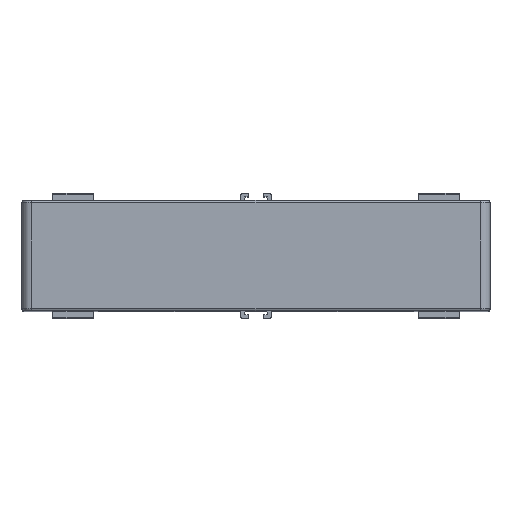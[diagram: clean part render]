
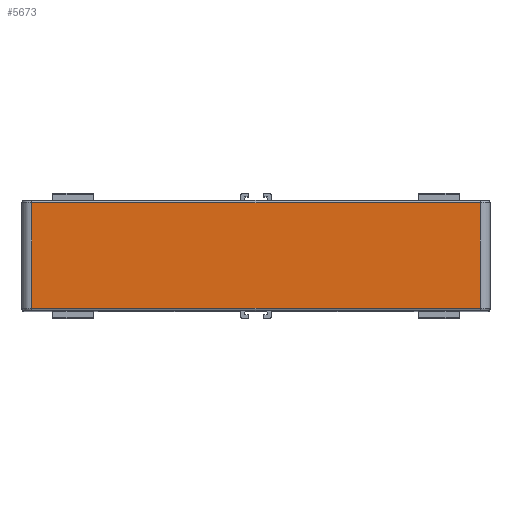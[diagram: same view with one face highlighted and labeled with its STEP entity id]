
A CAD part, top view. The second image highlights one B-rep face of the part: STEP entity #5673.
In plain terms, the highlighted planar face has unit normal (0, 0, 1).
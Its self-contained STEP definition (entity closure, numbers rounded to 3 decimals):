
#844 = EDGE_CURVE ( 'NONE', #37728, #25924, #2522, .T. ) ;
#1171 = CARTESIAN_POINT ( 'NONE',  ( 75.271, 244.964, 165.35 ) ) ;
#2522 = LINE ( 'NONE', #17769, #3105 ) ;
#2818 = DIRECTION ( 'NONE',  ( -1., 0., 0. ) ) ;
#3105 = VECTOR ( 'NONE', #25498, 1000. ) ;
#4589 = CARTESIAN_POINT ( 'NONE',  ( -106.729, 244.964, 165.35 ) ) ;
#5673 = ADVANCED_FACE ( 'NONE', ( #44958 ), #45257, .F. ) ;
#6398 = EDGE_LOOP ( 'NONE', ( #43668, #28620, #30978, #28619 ) ) ;
#7974 = LINE ( 'NONE', #18227, #29678 ) ;
#8506 = DIRECTION ( 'NONE',  ( 0., 1., 0. ) ) ;
#12250 = CARTESIAN_POINT ( 'NONE',  ( 75.271, 266.364, 165.35 ) ) ;
#13747 = VERTEX_POINT ( 'NONE', #34812 ) ;
#14177 = CARTESIAN_POINT ( 'NONE',  ( 75.271, 244.964, 165.35 ) ) ;
#15516 = CARTESIAN_POINT ( 'NONE',  ( -106.729, 287.764, 165.35 ) ) ;
#17769 = CARTESIAN_POINT ( 'NONE',  ( -106.729, 266.364, 165.35 ) ) ;
#18100 = EDGE_CURVE ( 'NONE', #13747, #37728, #7974, .T. ) ;
#18227 = CARTESIAN_POINT ( 'NONE',  ( -106.729, 287.764, 165.35 ) ) ;
#23758 = LINE ( 'NONE', #1171, #38284 ) ;
#25456 = VERTEX_POINT ( 'NONE', #14177 ) ;
#25498 = DIRECTION ( 'NONE',  ( 0., -1., 0. ) ) ;
#25924 = VERTEX_POINT ( 'NONE', #4589 ) ;
#26807 = EDGE_CURVE ( 'NONE', #25456, #13747, #47682, .T. ) ;
#28619 = ORIENTED_EDGE ( 'NONE', *, *, #18100, .T. ) ;
#28620 = ORIENTED_EDGE ( 'NONE', *, *, #35747, .T. ) ;
#28847 = VECTOR ( 'NONE', #8506, 1000. ) ;
#29678 = VECTOR ( 'NONE', #2818, 1000. ) ;
#30144 = DIRECTION ( 'NONE',  ( 0., 1., 0. ) ) ;
#30978 = ORIENTED_EDGE ( 'NONE', *, *, #26807, .T. ) ;
#34812 = CARTESIAN_POINT ( 'NONE',  ( 75.271, 287.764, 165.35 ) ) ;
#35747 = EDGE_CURVE ( 'NONE', #25924, #25456, #23758, .T. ) ;
#36159 = DIRECTION ( 'NONE',  ( 1., 0., 0. ) ) ;
#37728 = VERTEX_POINT ( 'NONE', #15516 ) ;
#38284 = VECTOR ( 'NONE', #36159, 1000. ) ;
#42001 = DIRECTION ( 'NONE',  ( 0., 0., -1. ) ) ;
#43668 = ORIENTED_EDGE ( 'NONE', *, *, #844, .T. ) ;
#44958 = FACE_OUTER_BOUND ( 'NONE', #6398, .T. ) ;
#45257 = PLANE ( 'NONE',  #49778 ) ;
#47682 = LINE ( 'NONE', #12250, #28847 ) ;
#49654 = CARTESIAN_POINT ( 'NONE',  ( -110.729, 266.364, 165.35 ) ) ;
#49778 = AXIS2_PLACEMENT_3D ( 'NONE', #49654, #42001, #30144 ) ;
